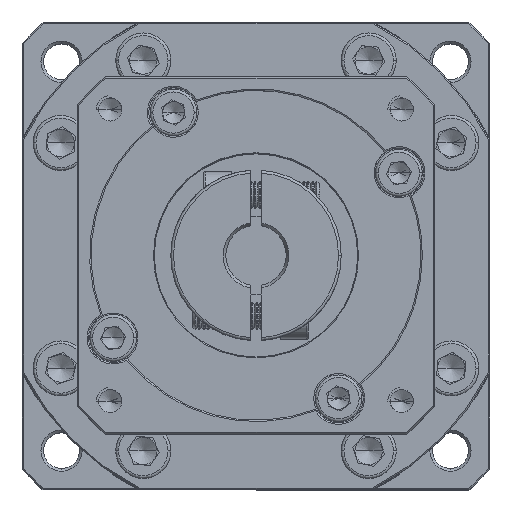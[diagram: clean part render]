
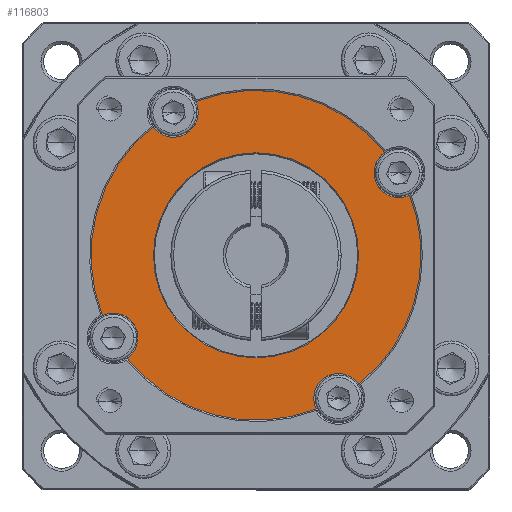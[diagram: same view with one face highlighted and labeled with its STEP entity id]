
A CAD part, top view. The second image highlights one B-rep face of the part: STEP entity #116803.
In plain terms, the highlighted planar face has unit normal (0, 0, 1).
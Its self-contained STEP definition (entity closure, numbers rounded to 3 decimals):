
#131 = CIRCLE ( 'NONE', #63733, 4.5 ) ;
#993 = VERTEX_POINT ( 'NONE', #90959 ) ;
#1822 = EDGE_CURVE ( 'NONE', #84011, #78367, #93178, .T. ) ;
#2237 = AXIS2_PLACEMENT_3D ( 'NONE', #57900, #118206, #67543 ) ;
#2499 = FACE_BOUND ( 'NONE', #43626, .T. ) ;
#2845 = CIRCLE ( 'NONE', #55755, 4.5 ) ;
#3540 = EDGE_CURVE ( 'NONE', #42580, #33960, #101834, .T. ) ;
#3790 = DIRECTION ( 'NONE',  ( 0., 0., 1. ) ) ;
#5669 = AXIS2_PLACEMENT_3D ( 'NONE', #67680, #99082, #18591 ) ;
#6785 = CIRCLE ( 'NONE', #28590, 4.5 ) ;
#7686 = EDGE_CURVE ( 'NONE', #86867, #49373, #129212, .T. ) ;
#8596 = CARTESIAN_POINT ( 'NONE',  ( -63.435, 8.289, 15.321 ) ) ;
#8996 = CARTESIAN_POINT ( 'NONE',  ( -47.954, 49.27, 15.321 ) ) ;
#10344 = EDGE_LOOP ( 'NONE', ( #50018, #88723, #127858, #123328, #95813, #50641, #98173, #54789, #38466, #10597, #38364, #43964, #63125 ) ) ;
#10597 = ORIENTED_EDGE ( 'NONE', *, *, #100132, .F. ) ;
#14446 = ORIENTED_EDGE ( 'NONE', *, *, #23279, .T. ) ;
#15246 = DIRECTION ( 'NONE',  ( 1., 0., 0. ) ) ;
#15486 = CIRCLE ( 'NONE', #55804, 30. ) ;
#17536 = CARTESIAN_POINT ( 'NONE',  ( -84.435, 60.251, 15.321 ) ) ;
#17759 = DIRECTION ( 'NONE',  ( 1., 0., 0. ) ) ;
#18591 = DIRECTION ( 'NONE',  ( 1., 0., 0. ) ) ;
#18941 = CARTESIAN_POINT ( 'NONE',  ( -73.935, 34.27, 15.321 ) ) ;
#19488 = EDGE_CURVE ( 'NONE', #993, #101303, #36477, .T. ) ;
#20176 = EDGE_CURVE ( 'NONE', #86962, #84011, #101967, .T. ) ;
#20782 = EDGE_CURVE ( 'NONE', #23577, #33960, #131, .T. ) ;
#22094 = AXIS2_PLACEMENT_3D ( 'NONE', #41700, #121269, #52234 ) ;
#23279 = EDGE_CURVE ( 'NONE', #125119, #75477, #125381, .T. ) ;
#23577 = VERTEX_POINT ( 'NONE', #38060 ) ;
#24886 = CARTESIAN_POINT ( 'NONE',  ( -92.652, 57.715, 15.321 ) ) ;
#25324 = CARTESIAN_POINT ( 'NONE',  ( -99.915, 19.27, 15.321 ) ) ;
#26374 = CARTESIAN_POINT ( 'NONE',  ( -43.935, 34.27, 15.321 ) ) ;
#28590 = AXIS2_PLACEMENT_3D ( 'NONE', #89089, #58087, #99125 ) ;
#29318 = DIRECTION ( 'NONE',  ( 0., 0., 1. ) ) ;
#31675 = DIRECTION ( 'NONE',  ( 1., 0., 0. ) ) ;
#33960 = VERTEX_POINT ( 'NONE', #86966 ) ;
#34175 = AXIS2_PLACEMENT_3D ( 'NONE', #122700, #3790, #53678 ) ;
#35036 = CIRCLE ( 'NONE', #5669, 18.644 ) ;
#36477 = CIRCLE ( 'NONE', #34175, 4.5 ) ;
#38060 = CARTESIAN_POINT ( 'NONE',  ( -52.454, 49.27, 15.321 ) ) ;
#38364 = ORIENTED_EDGE ( 'NONE', *, *, #50920, .F. ) ;
#38466 = ORIENTED_EDGE ( 'NONE', *, *, #106992, .T. ) ;
#41700 = CARTESIAN_POINT ( 'NONE',  ( -73.935, 34.27, 15.321 ) ) ;
#42482 = CARTESIAN_POINT ( 'NONE',  ( -55.29, 34.27, 15.321 ) ) ;
#42580 = VERTEX_POINT ( 'NONE', #26374 ) ;
#42677 = DIRECTION ( 'NONE',  ( 0., 0., 1. ) ) ;
#43118 = CARTESIAN_POINT ( 'NONE',  ( -88.935, 60.251, 15.321 ) ) ;
#43626 = EDGE_LOOP ( 'NONE', ( #14446, #112517 ) ) ;
#43964 = ORIENTED_EDGE ( 'NONE', *, *, #7686, .T. ) ;
#44488 = DIRECTION ( 'NONE',  ( 0., 0., 1. ) ) ;
#49373 = VERTEX_POINT ( 'NONE', #90359 ) ;
#50018 = ORIENTED_EDGE ( 'NONE', *, *, #19488, .F. ) ;
#50641 = ORIENTED_EDGE ( 'NONE', *, *, #3540, .T. ) ;
#50920 = EDGE_CURVE ( 'NONE', #86867, #83489, #6785, .T. ) ;
#52234 = DIRECTION ( 'NONE',  ( 1., 0., 0. ) ) ;
#53678 = DIRECTION ( 'NONE',  ( 1., 0., 0. ) ) ;
#54616 = CARTESIAN_POINT ( 'NONE',  ( -73.935, 34.27, 15.321 ) ) ;
#54789 = ORIENTED_EDGE ( 'NONE', *, *, #103126, .F. ) ;
#55256 = CARTESIAN_POINT ( 'NONE',  ( -62.989, 6.338, 15.321 ) ) ;
#55755 = AXIS2_PLACEMENT_3D ( 'NONE', #43118, #42677, #113064 ) ;
#55804 = AXIS2_PLACEMENT_3D ( 'NONE', #117552, #97827, #17759 ) ;
#57301 = CIRCLE ( 'NONE', #2237, 4.5 ) ;
#57712 = DIRECTION ( 'NONE',  ( 1., 0., 0. ) ) ;
#57900 = CARTESIAN_POINT ( 'NONE',  ( -47.954, 49.27, 15.321 ) ) ;
#58087 = DIRECTION ( 'NONE',  ( 0., 0., 1. ) ) ;
#58823 = DIRECTION ( 'NONE',  ( 1., 0., 0. ) ) ;
#59141 = DIRECTION ( 'NONE',  ( 1., 0., 0. ) ) ;
#63125 = ORIENTED_EDGE ( 'NONE', *, *, #91623, .F. ) ;
#63733 = AXIS2_PLACEMENT_3D ( 'NONE', #8996, #69434, #108817 ) ;
#67543 = DIRECTION ( 'NONE',  ( 1., 0., 0. ) ) ;
#67680 = CARTESIAN_POINT ( 'NONE',  ( -73.935, 34.27, 15.321 ) ) ;
#68290 = FACE_OUTER_BOUND ( 'NONE', #10344, .T. ) ;
#69434 = DIRECTION ( 'NONE',  ( 0., 0., 1. ) ) ;
#74002 = VERTEX_POINT ( 'NONE', #115690 ) ;
#74183 = CIRCLE ( 'NONE', #109918, 30. ) ;
#74323 = CIRCLE ( 'NONE', #121608, 30. ) ;
#75477 = VERTEX_POINT ( 'NONE', #96117 ) ;
#78367 = VERTEX_POINT ( 'NONE', #55256 ) ;
#79751 = VERTEX_POINT ( 'NONE', #85218 ) ;
#80447 = AXIS2_PLACEMENT_3D ( 'NONE', #25324, #116314, #124598 ) ;
#82266 = AXIS2_PLACEMENT_3D ( 'NONE', #117922, #99950, #31675 ) ;
#83458 = DIRECTION ( 'NONE',  ( 1., 0., 0. ) ) ;
#83489 = VERTEX_POINT ( 'NONE', #17536 ) ;
#84011 = VERTEX_POINT ( 'NONE', #8596 ) ;
#85218 = CARTESIAN_POINT ( 'NONE',  ( -84.88, 62.202, 15.321 ) ) ;
#86867 = VERTEX_POINT ( 'NONE', #24886 ) ;
#86945 = EDGE_CURVE ( 'NONE', #86962, #42580, #74183, .T. ) ;
#86962 = VERTEX_POINT ( 'NONE', #118431 ) ;
#86966 = CARTESIAN_POINT ( 'NONE',  ( -46.002, 45.215, 15.321 ) ) ;
#88260 = CARTESIAN_POINT ( 'NONE',  ( -73.935, 34.27, 15.321 ) ) ;
#88723 = ORIENTED_EDGE ( 'NONE', *, *, #111365, .T. ) ;
#88793 = AXIS2_PLACEMENT_3D ( 'NONE', #89302, #29318, #59141 ) ;
#89089 = CARTESIAN_POINT ( 'NONE',  ( -88.935, 60.251, 15.321 ) ) ;
#89302 = CARTESIAN_POINT ( 'NONE',  ( -58.935, 8.289, 15.321 ) ) ;
#89822 = DIRECTION ( 'NONE',  ( 0., 0., 1. ) ) ;
#90359 = CARTESIAN_POINT ( 'NONE',  ( -101.867, 23.325, 15.321 ) ) ;
#90959 = CARTESIAN_POINT ( 'NONE',  ( -97.379, 15.553, 15.321 ) ) ;
#91623 = EDGE_CURVE ( 'NONE', #101303, #49373, #128986, .T. ) ;
#92332 = AXIS2_PLACEMENT_3D ( 'NONE', #18941, #89822, #58823 ) ;
#93178 = CIRCLE ( 'NONE', #95469, 4.5 ) ;
#95469 = AXIS2_PLACEMENT_3D ( 'NONE', #122203, #112594, #102961 ) ;
#95813 = ORIENTED_EDGE ( 'NONE', *, *, #86945, .T. ) ;
#96117 = CARTESIAN_POINT ( 'NONE',  ( -92.579, 34.27, 15.321 ) ) ;
#96808 = EDGE_CURVE ( 'NONE', #75477, #125119, #35036, .T. ) ;
#97827 = DIRECTION ( 'NONE',  ( 0., 0., 1. ) ) ;
#98173 = ORIENTED_EDGE ( 'NONE', *, *, #20782, .F. ) ;
#98944 = AXIS2_PLACEMENT_3D ( 'NONE', #54616, #44488, #83458 ) ;
#99082 = DIRECTION ( 'NONE',  ( 0., 0., -1. ) ) ;
#99125 = DIRECTION ( 'NONE',  ( 1., 0., 0. ) ) ;
#99950 = DIRECTION ( 'NONE',  ( 0., 0., 1. ) ) ;
#100132 = EDGE_CURVE ( 'NONE', #83489, #79751, #2845, .T. ) ;
#101303 = VERTEX_POINT ( 'NONE', #114549 ) ;
#101834 = CIRCLE ( 'NONE', #82266, 30. ) ;
#101967 = CIRCLE ( 'NONE', #88793, 4.5 ) ;
#102961 = DIRECTION ( 'NONE',  ( 1., 0., 0. ) ) ;
#103126 = EDGE_CURVE ( 'NONE', #74002, #23577, #57301, .T. ) ;
#106542 = PLANE ( 'NONE',  #92332 ) ;
#106992 = EDGE_CURVE ( 'NONE', #74002, #79751, #15486, .T. ) ;
#108817 = DIRECTION ( 'NONE',  ( 1., 0., 0. ) ) ;
#109918 = AXIS2_PLACEMENT_3D ( 'NONE', #88260, #117588, #57712 ) ;
#111365 = EDGE_CURVE ( 'NONE', #993, #78367, #74323, .T. ) ;
#112517 = ORIENTED_EDGE ( 'NONE', *, *, #96808, .T. ) ;
#112594 = DIRECTION ( 'NONE',  ( 0., 0., 1. ) ) ;
#113064 = DIRECTION ( 'NONE',  ( 1., 0., 0. ) ) ;
#114549 = CARTESIAN_POINT ( 'NONE',  ( -95.415, 19.27, 15.321 ) ) ;
#114557 = CARTESIAN_POINT ( 'NONE',  ( -73.935, 34.27, 15.321 ) ) ;
#115690 = CARTESIAN_POINT ( 'NONE',  ( -50.49, 52.987, 15.321 ) ) ;
#116314 = DIRECTION ( 'NONE',  ( 0., 0., 1. ) ) ;
#116803 = ADVANCED_FACE ( 'NONE', ( #2499, #68290 ), #106542, .T. ) ;
#117552 = CARTESIAN_POINT ( 'NONE',  ( -73.935, 34.27, 15.321 ) ) ;
#117588 = DIRECTION ( 'NONE',  ( 0., 0., 1. ) ) ;
#117922 = CARTESIAN_POINT ( 'NONE',  ( -73.935, 34.27, 15.321 ) ) ;
#118206 = DIRECTION ( 'NONE',  ( 0., 0., 1. ) ) ;
#118431 = CARTESIAN_POINT ( 'NONE',  ( -55.217, 10.825, 15.321 ) ) ;
#121269 = DIRECTION ( 'NONE',  ( 0., 0., -1. ) ) ;
#121608 = AXIS2_PLACEMENT_3D ( 'NONE', #114557, #125871, #15246 ) ;
#122203 = CARTESIAN_POINT ( 'NONE',  ( -58.935, 8.289, 15.321 ) ) ;
#122700 = CARTESIAN_POINT ( 'NONE',  ( -99.915, 19.27, 15.321 ) ) ;
#123328 = ORIENTED_EDGE ( 'NONE', *, *, #20176, .F. ) ;
#124598 = DIRECTION ( 'NONE',  ( 1., 0., 0. ) ) ;
#125119 = VERTEX_POINT ( 'NONE', #42482 ) ;
#125381 = CIRCLE ( 'NONE', #22094, 18.644 ) ;
#125871 = DIRECTION ( 'NONE',  ( 0., 0., 1. ) ) ;
#127858 = ORIENTED_EDGE ( 'NONE', *, *, #1822, .F. ) ;
#128986 = CIRCLE ( 'NONE', #80447, 4.5 ) ;
#129212 = CIRCLE ( 'NONE', #98944, 30. ) ;
